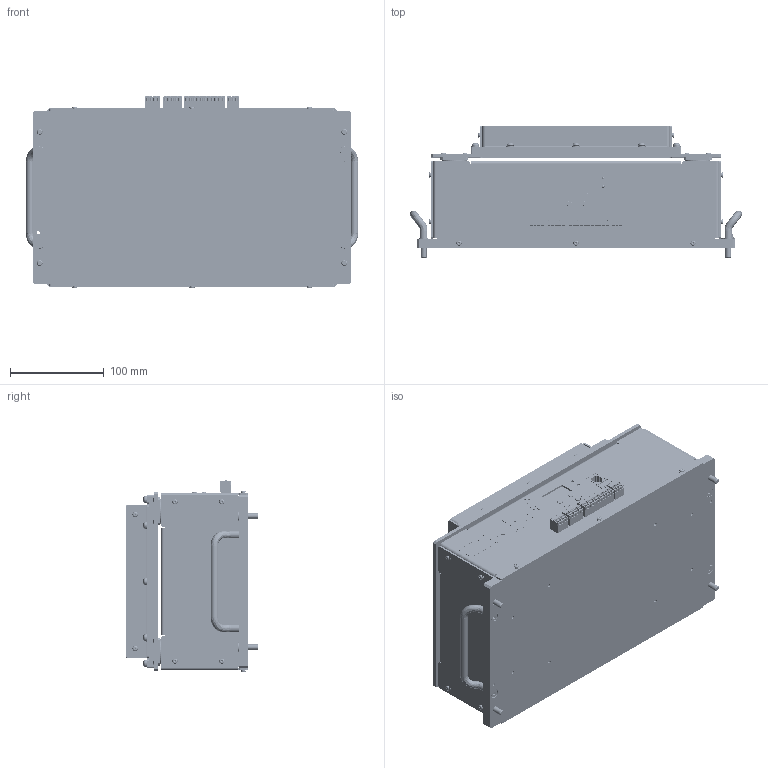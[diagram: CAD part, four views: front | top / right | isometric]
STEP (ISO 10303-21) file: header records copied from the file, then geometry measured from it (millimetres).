
FILE_DESCRIPTION (( 'STEP AP214' ), '1' );
FILE_NAME ('3-124-000088,柔性振散盘,标准,QFF-2016,200盘面,网口版,包装成品.STEP', '2025-07-18T02:47:55', ( '' ), ( '' ), 'SwSTEP 2.0', 'SolidWorks 2017', '' );
FILE_SCHEMA (( 'AUTOMOTIVE_DESIGN' ));
Length unit declared in the file: millimetre
Products named in the file (1): 3-124-000088,柔性振散盘,标准,QFF-2016,200盘面,网口版,包装成品
Bounding box: 354.3 x 141.4 x 205.85 mm (x, y, z)
Volume: 1504816 mm3; surface area: 745312.4 mm2
Topology: 278 solids, 278 shells, 11206 faces, 28527 edges, 18640 vertices
Faces by surface type: plane 6771, bspline 2105, cylinder 1749, cone 369, torus 212
Entity records: 512800 total; most frequent: CARTESIAN_POINT 125722, ORIENTED_EDGE 56986, DIRECTION 46967, EDGE_CURVE 28493, LINE 19469, VECTOR 19469, VERTEX_POINT 18640, AXIS2_PLACEMENT_3D 13749
